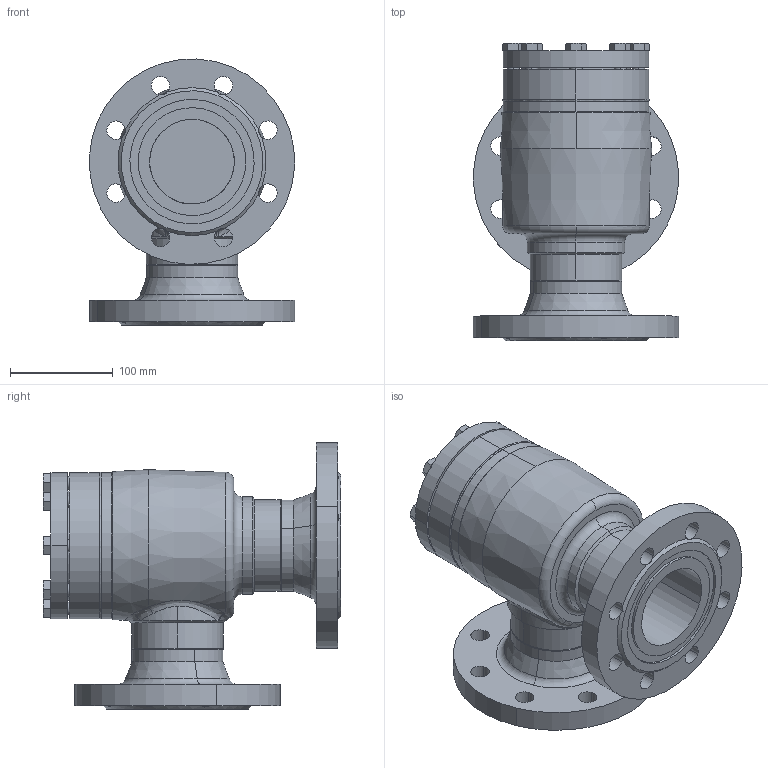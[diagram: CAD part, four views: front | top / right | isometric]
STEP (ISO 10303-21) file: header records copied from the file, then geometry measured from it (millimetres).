
FILE_DESCRIPTION (( 'STEP AP214' ), '1' );
FILE_NAME ('SS52420D18-DN080_DIN-FL-N_PS40.STEP', '2007-01-08T09:53:55', ( 'Herr Grams' ), ( 'AWP GmbH' ), 'SwSTEP 2.0', 'SolidWorks 2002296', '' );
FILE_SCHEMA (( 'AUTOMOTIVE_DESIGN' ));
Length unit declared in the file: millimetre
Products named in the file (12): SS52420D18-DN080_DIN-FL-N_PS40; Gehäuse-kpl16420-DN080_DIN_PS40_Standard; Gehäuse-kpl16400-DN080_R1_Standard; Kopfstück16300-DN080_Standard; Gehäuse16400-DN080_Standard; bead-DN080-1_Standard; Flansch-DIN-Nut_PS40_DIN-Flansch-DN080_PS40-Nut; bead-DN080-4_Standard; bead-DN080-3_Standard; SS52300E18_Deck+Schr-DN80_Standard; Deckel52300E18-DN80_Standard; Sechskantschraube-DIN933_M12x 30
Assembly tree (19 placements, depth 4):
  SS52420D18-DN080_DIN-FL-N_PS40
    SS52300E18_Deck+Schr-DN80_Standard
      Sechskantschraube-DIN933_M12x 30  x8
      Deckel52300E18-DN80_Standard
    Gehäuse-kpl16420-DN080_DIN_PS40_Standard
      Flansch-DIN-Nut_PS40_DIN-Flansch-DN080_PS40-Nut  x2
      bead-DN080-4_Standard
      bead-DN080-3_Standard
      Gehäuse-kpl16400-DN080_R1_Standard
        Kopfstück16300-DN080_Standard
        Gehäuse16400-DN080_Standard
        bead-DN080-1_Standard
Bounding box: 199.81 x 289.5 x 258.9 mm (x, y, z)
Volume: 2552792.1 mm3; surface area: 475693.8 mm2
Topology: 16 solids, 16 shells, 375 faces, 870 edges, 531 vertices
Faces by surface type: cone 131, cylinder 114, plane 102, bspline 20, torus 8
Entity records: 17473 total; most frequent: CARTESIAN_POINT 12943, DIRECTION 837, ORIENTED_EDGE 784, EDGE_CURVE 392, AXIS2_PLACEMENT_3D 372, VERTEX_POINT 247, EDGE_LOOP 209, CIRCLE 205
